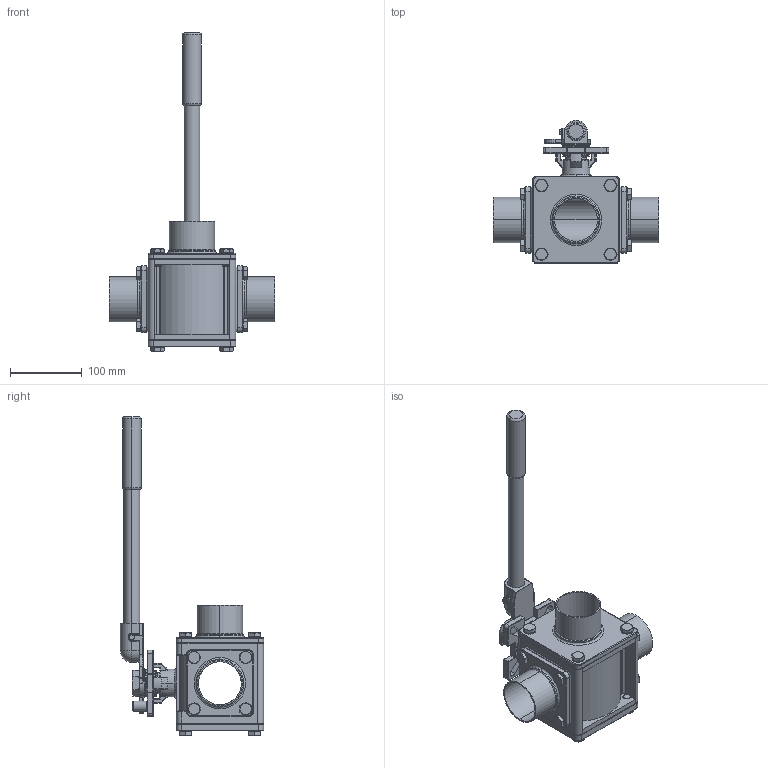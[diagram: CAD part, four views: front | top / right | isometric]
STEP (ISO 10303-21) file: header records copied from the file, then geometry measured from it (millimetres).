
FILE_DESCRIPTION (( 'STEP AP203' ), '1' );
FILE_NAME ('E93WWW-62.5-T.STEP', '2019-07-02T02:22:58', ( '' ), ( '' ), 'SwSTEP 2.0', 'SolidWorks 2014', '' );
FILE_SCHEMA (( 'CONFIG_CONTROL_DESIGN' ));
Length unit declared in the file: millimetre
Products named in the file (27): 2.3WAY-CAP-W-2.5B; 17.LOCKING TAB2.5; 14.HANDLE2.5-2; 13.STEM2.5; 16.BOLT2.5; 3.3WAY-BALL-2.5-T; 5.GASKET2.5; 21.PLAIN WASHER2.5; 8.STEM PACKING2.5; 4.SEAT1-2.5; 19.3WAY-CAP2.5; 7.O-RING2.5; 14.HANDLE2.5-1; 6.THRUST WASHER2.5; 22.SEAT-L-2.5; 22.SEAT-R-2.5; 15.SPRING WASHER2.0-2.5; 14.HANDLE2.5-4.0-3; 10.BEVEL WASHER2.5; 2.3WAY-CAP-W-2.5S; 18.THINNER NUT2.5; 12.3WAY-NUT2.5; 20.SEAT BACK2.5; 9.RING2.5; E93WWW-62.5-T; 1.3WAY-BODY2.5; 11.STOP PIN2.5
Assembly tree (60 placements, depth 2):
  E93WWW-62.5-T
    1.3WAY-BODY2.5
    13.STEM2.5
    6.THRUST WASHER2.5
    7.O-RING2.5
    22.SEAT-L-2.5
    22.SEAT-R-2.5
    4.SEAT1-2.5  x2
    20.SEAT BACK2.5
    5.GASKET2.5  x2
    19.3WAY-CAP2.5
    15.SPRING WASHER2.0-2.5  x16
    16.BOLT2.5  x16
    8.STEM PACKING2.5
    9.RING2.5
    10.BEVEL WASHER2.5  x2
    17.LOCKING TAB2.5
    18.THINNER NUT2.5
    21.PLAIN WASHER2.5
    14.HANDLE2.5-1
    14.HANDLE2.5-2
    14.HANDLE2.5-4.0-3
    12.3WAY-NUT2.5
    11.STOP PIN2.5
    3.3WAY-BALL-2.5-T
    2.3WAY-CAP-W-2.5S  x2
    2.3WAY-CAP-W-2.5B
Bounding box: 231 x 199.86 x 444.7 mm (x, y, z)
Volume: 1674496.1 mm3; surface area: 561178.1 mm2
Topology: 61 solids, 61 shells, 1537 faces, 3468 edges, 2051 vertices
Faces by surface type: cylinder 568, plane 416, cone 252, torus 189, sphere 59, bspline 53
Entity records: 37447 total; most frequent: CARTESIAN_POINT 8913, DIRECTION 5685, ORIENTED_EDGE 4906, EDGE_CURVE 2453, AXIS2_PLACEMENT_3D 2401, VERTEX_POINT 1454, CIRCLE 1319, EDGE_LOOP 1185
